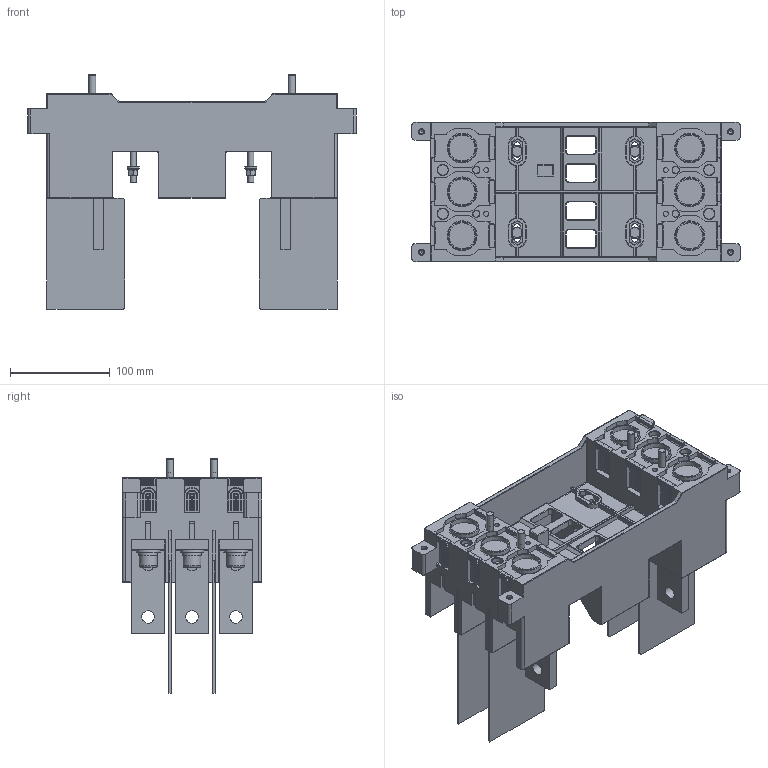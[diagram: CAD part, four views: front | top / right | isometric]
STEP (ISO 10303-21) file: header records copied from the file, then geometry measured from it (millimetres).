
FILE_DESCRIPTION(/* description */ (''),/* implementation_level */ '2;1');
FILE_NAME(/* name */ 'FCR1-CM5-630-1.stp',/* time_stamp */ '2023-03-24T15:08:34+08:00',/* author */ (''),/* organization */ (''),/* preprocessor_version */ 'ST-DEVELOPER v16.7',/* originating_system */ 'SIEMENS PLM Software NX 12.0',/* authorisation */ '');
FILE_SCHEMA (('AUTOMOTIVE_DESIGN { 1 0 10303 214 3 1 1 1 }'));
Products named in the file (1): _model1
Bounding box: 329 x 140 x 235 mm (x, y, z)
Volume: 1920764.3 mm3; surface area: 480267.2 mm2
Topology: 5 solids, 17 shells, 3023 faces, 8227 edges, 5215 vertices
Faces by surface type: plane 1835, cylinder 886, cone 144, torus 82, sphere 64, bspline 12
Full cylindrical faces by diameter (mm): 4.351 x4, 4.5 x4, 5 x8, 5.5 x4, 6 x16, 6.4 x4, 7.2 x4, 9.5 x4, 10.5 x4, 12 x10, 12.5 x18, 13 x6, 18 x6, 24 x6, 26 x6, 29 x6
Entity records: 93474 total; most frequent: CARTESIAN_POINT 17515, ORIENTED_EDGE 15788, DIRECTION 15666, EDGE_CURVE 7894, LINE 5594, VECTOR 5594, VERTEX_POINT 5122, AXIS2_PLACEMENT_3D 5036
